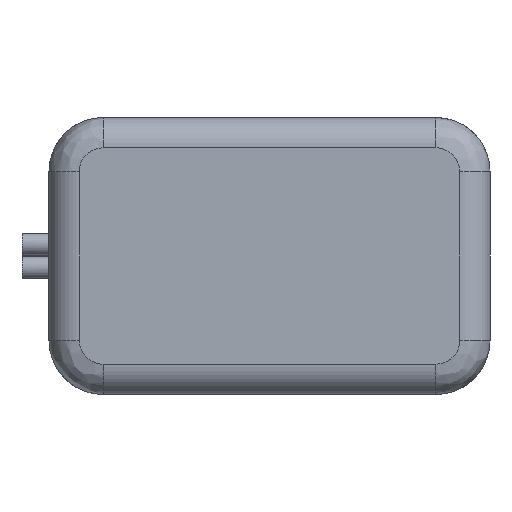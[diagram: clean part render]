
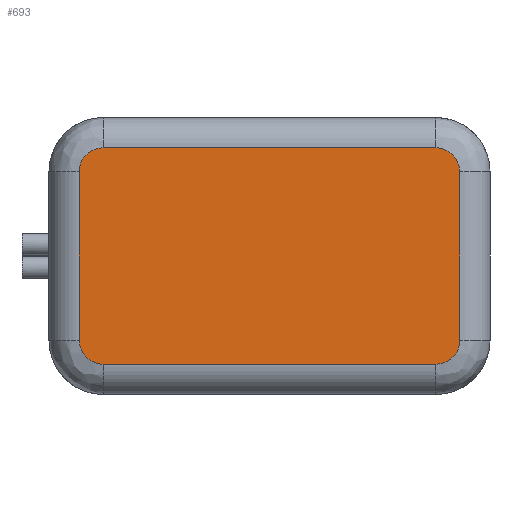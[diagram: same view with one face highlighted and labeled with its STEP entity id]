
A CAD part, front view. The second image highlights one B-rep face of the part: STEP entity #693.
In plain terms, the highlighted planar face has unit normal (0, -1, 0).
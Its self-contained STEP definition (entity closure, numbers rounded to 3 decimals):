
#1 = EDGE_CURVE ( 'NONE', #3617, #803, #3036, .T. ) ;
#269 = ORIENTED_EDGE ( 'NONE', *, *, #5536, .T. ) ;
#296 = CARTESIAN_POINT ( 'NONE',  ( -11.353, -26.6, -5.032 ) ) ;
#577 = DIRECTION ( 'NONE',  ( 0., 1., 0. ) ) ;
#631 = CARTESIAN_POINT ( 'NONE',  ( -13.159, -26.6, 6.452 ) ) ;
#660 = DIRECTION ( 'NONE',  ( 0., 0., 1. ) ) ;
#664 = EDGE_CURVE ( 'NONE', #6812, #3617, #1837, .T. ) ;
#693 = ADVANCED_FACE ( 'NONE', ( #1201 ), #8134, .F. ) ;
#803 = VERTEX_POINT ( 'NONE', #5801 ) ;
#822 = VERTEX_POINT ( 'NONE', #2046 ) ;
#1086 = DIRECTION ( 'NONE',  ( 0., 0., -1. ) ) ;
#1102 = LINE ( 'NONE', #6726, #4997 ) ;
#1118 = CARTESIAN_POINT ( 'NONE',  ( -9.934, -26.6, -6.452 ) ) ;
#1201 = FACE_OUTER_BOUND ( 'NONE', #5862, .T. ) ;
#1227 = EDGE_CURVE ( 'NONE', #4895, #4884, #6960, .T. ) ;
#1251 = CARTESIAN_POINT ( 'NONE',  ( 11.353, -26.6, 5.864 ) ) ;
#1326 = EDGE_CURVE ( 'NONE', #7063, #822, #2057, .T. ) ;
#1419 = VECTOR ( 'NONE', #8149, 1000. ) ;
#1672 = CARTESIAN_POINT ( 'NONE',  ( -11.353, -26.6, -5.032 ) ) ;
#1817 = VECTOR ( 'NONE', #1086, 1000. ) ;
#1837 = LINE ( 'NONE', #6750, #1817 ) ;
#1954 =( BOUNDED_CURVE ( )  B_SPLINE_CURVE ( 3, ( #6918, #1251, #5068, #6959 ),
 .UNSPECIFIED., .F., .T. ) 
 B_SPLINE_CURVE_WITH_KNOTS ( ( 4, 4 ),
 ( 0., 1. ),
 .UNSPECIFIED. ) 
 CURVE ( )  GEOMETRIC_REPRESENTATION_ITEM ( )  RATIONAL_B_SPLINE_CURVE ( ( 1., 0.805, 0.805, 1. ) ) 
 REPRESENTATION_ITEM ( '' )  );
#2046 = CARTESIAN_POINT ( 'NONE',  ( 11.353, -26.6, -5.032 ) ) ;
#2057 =( BOUNDED_CURVE ( )  B_SPLINE_CURVE ( 3, ( #5158, #2589, #5859, #5284 ),
 .UNSPECIFIED., .F., .T. ) 
 B_SPLINE_CURVE_WITH_KNOTS ( ( 4, 4 ),
 ( 0., 1. ),
 .UNSPECIFIED. ) 
 CURVE ( )  GEOMETRIC_REPRESENTATION_ITEM ( )  RATIONAL_B_SPLINE_CURVE ( ( 1., 0.805, 0.805, 1. ) ) 
 REPRESENTATION_ITEM ( '' )  );
#2159 = EDGE_CURVE ( 'NONE', #803, #7063, #5289, .T. ) ;
#2195 = DIRECTION ( 'NONE',  ( 1., 0., 0. ) ) ;
#2583 = EDGE_CURVE ( 'NONE', #7900, #4895, #1954, .T. ) ;
#2589 = CARTESIAN_POINT ( 'NONE',  ( 10.765, -26.6, -6.452 ) ) ;
#2750 = CARTESIAN_POINT ( 'NONE',  ( -10.765, -26.6, 6.452 ) ) ;
#2863 = CARTESIAN_POINT ( 'NONE',  ( -11.353, -26.6, 5.032 ) ) ;
#3036 =( BOUNDED_CURVE ( )  B_SPLINE_CURVE ( 3, ( #1672, #4191, #6099, #1118 ),
 .UNSPECIFIED., .F., .T. ) 
 B_SPLINE_CURVE_WITH_KNOTS ( ( 4, 4 ),
 ( 0., 1. ),
 .UNSPECIFIED. ) 
 CURVE ( )  GEOMETRIC_REPRESENTATION_ITEM ( )  RATIONAL_B_SPLINE_CURVE ( ( 1., 0.805, 0.805, 1. ) ) 
 REPRESENTATION_ITEM ( '' )  );
#3092 = CARTESIAN_POINT ( 'NONE',  ( 9.934, -26.6, -6.452 ) ) ;
#3402 = AXIS2_PLACEMENT_3D ( 'NONE', #3736, #577, #660 ) ;
#3617 = VERTEX_POINT ( 'NONE', #296 ) ;
#3736 = CARTESIAN_POINT ( 'NONE',  ( -13.159, -26.6, 8.258 ) ) ;
#4027 = CARTESIAN_POINT ( 'NONE',  ( -11.353, -26.6, 5.864 ) ) ;
#4032 =( BOUNDED_CURVE ( )  B_SPLINE_CURVE ( 3, ( #7245, #2750, #4027, #2863 ),
 .UNSPECIFIED., .F., .T. ) 
 B_SPLINE_CURVE_WITH_KNOTS ( ( 4, 4 ),
 ( 0., 1. ),
 .UNSPECIFIED. ) 
 CURVE ( )  GEOMETRIC_REPRESENTATION_ITEM ( )  RATIONAL_B_SPLINE_CURVE ( ( 1., 0.805, 0.805, 1. ) ) 
 REPRESENTATION_ITEM ( '' )  );
#4047 = ORIENTED_EDGE ( 'NONE', *, *, #1227, .T. ) ;
#4129 = CARTESIAN_POINT ( 'NONE',  ( -13.159, -26.6, -6.452 ) ) ;
#4191 = CARTESIAN_POINT ( 'NONE',  ( -11.353, -26.6, -5.864 ) ) ;
#4772 = ORIENTED_EDGE ( 'NONE', *, *, #1, .T. ) ;
#4884 = VERTEX_POINT ( 'NONE', #6117 ) ;
#4895 = VERTEX_POINT ( 'NONE', #7272 ) ;
#4903 = CARTESIAN_POINT ( 'NONE',  ( 11.353, -26.6, 5.032 ) ) ;
#4912 = EDGE_CURVE ( 'NONE', #822, #7900, #1102, .T. ) ;
#4979 = CARTESIAN_POINT ( 'NONE',  ( -11.353, -26.6, 5.032 ) ) ;
#4997 = VECTOR ( 'NONE', #7995, 1000. ) ;
#5068 = CARTESIAN_POINT ( 'NONE',  ( 10.765, -26.6, 6.452 ) ) ;
#5158 = CARTESIAN_POINT ( 'NONE',  ( 9.934, -26.6, -6.452 ) ) ;
#5263 = ORIENTED_EDGE ( 'NONE', *, *, #2583, .T. ) ;
#5284 = CARTESIAN_POINT ( 'NONE',  ( 11.353, -26.6, -5.032 ) ) ;
#5289 = LINE ( 'NONE', #4129, #8010 ) ;
#5536 = EDGE_CURVE ( 'NONE', #4884, #6812, #4032, .T. ) ;
#5801 = CARTESIAN_POINT ( 'NONE',  ( -9.934, -26.6, -6.452 ) ) ;
#5859 = CARTESIAN_POINT ( 'NONE',  ( 11.353, -26.6, -5.864 ) ) ;
#5862 = EDGE_LOOP ( 'NONE', ( #4047, #269, #6345, #4772, #6292, #6221, #7254, #5263 ) ) ;
#6099 = CARTESIAN_POINT ( 'NONE',  ( -10.765, -26.6, -6.452 ) ) ;
#6117 = CARTESIAN_POINT ( 'NONE',  ( -9.934, -26.6, 6.452 ) ) ;
#6221 = ORIENTED_EDGE ( 'NONE', *, *, #1326, .T. ) ;
#6292 = ORIENTED_EDGE ( 'NONE', *, *, #2159, .T. ) ;
#6345 = ORIENTED_EDGE ( 'NONE', *, *, #664, .T. ) ;
#6726 = CARTESIAN_POINT ( 'NONE',  ( 11.353, -26.6, 8.258 ) ) ;
#6750 = CARTESIAN_POINT ( 'NONE',  ( -11.353, -26.6, 8.258 ) ) ;
#6812 = VERTEX_POINT ( 'NONE', #4979 ) ;
#6918 = CARTESIAN_POINT ( 'NONE',  ( 11.353, -26.6, 5.032 ) ) ;
#6959 = CARTESIAN_POINT ( 'NONE',  ( 9.934, -26.6, 6.452 ) ) ;
#6960 = LINE ( 'NONE', #631, #1419 ) ;
#7063 = VERTEX_POINT ( 'NONE', #3092 ) ;
#7245 = CARTESIAN_POINT ( 'NONE',  ( -9.934, -26.6, 6.452 ) ) ;
#7254 = ORIENTED_EDGE ( 'NONE', *, *, #4912, .T. ) ;
#7272 = CARTESIAN_POINT ( 'NONE',  ( 9.934, -26.6, 6.452 ) ) ;
#7900 = VERTEX_POINT ( 'NONE', #4903 ) ;
#7995 = DIRECTION ( 'NONE',  ( 0., 0., 1. ) ) ;
#8010 = VECTOR ( 'NONE', #2195, 1000. ) ;
#8134 = PLANE ( 'NONE',  #3402 ) ;
#8149 = DIRECTION ( 'NONE',  ( -1., 0., 0. ) ) ;
